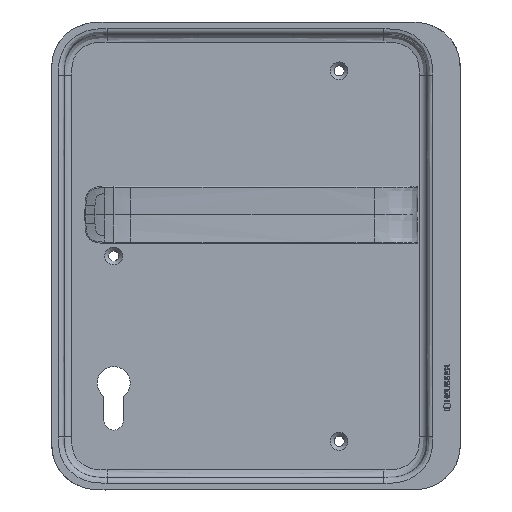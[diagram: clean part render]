
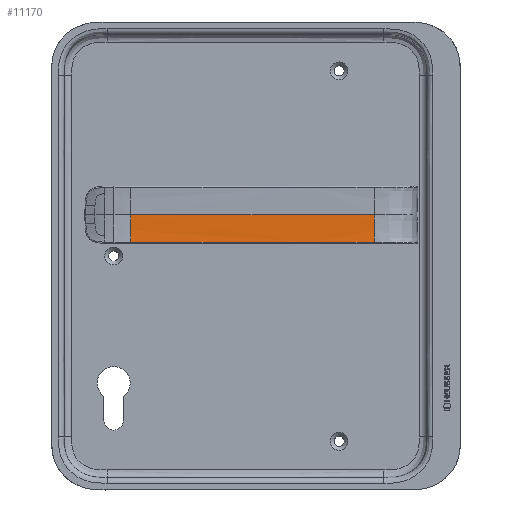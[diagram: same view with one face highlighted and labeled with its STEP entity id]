
A CAD part, top view. The second image highlights one B-rep face of the part: STEP entity #11170.
In plain terms, the highlighted free-form (B-spline) face has degree [5, 1] with [6, 2] control points.
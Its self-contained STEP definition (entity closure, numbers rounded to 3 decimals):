
#214=B_SPLINE_SURFACE_WITH_KNOTS('',5,1,((#22509,#22510),(#22511,#22512),
(#22513,#22514),(#22515,#22516),(#22517,#22518),(#22519,#22520)),
 .UNSPECIFIED.,.F.,.F.,.F.,(6,6),(2,2),(0.,1.),(0.,1.),.UNSPECIFIED.);
#674=B_SPLINE_CURVE_WITH_KNOTS('',5,(#22284,#22285,#22286,#22287,#22288,
#22289),.UNSPECIFIED.,.F.,.F.,(6,6),(0.034,0.5),
 .UNSPECIFIED.);
#679=B_SPLINE_CURVE_WITH_KNOTS('',5,(#22523,#22524,#22525,#22526,#22527,
#22528),.UNSPECIFIED.,.F.,.F.,(6,6),(0.034,0.5),
 .UNSPECIFIED.);
#680=B_SPLINE_CURVE_WITH_KNOTS('',3,(#22530,#22531,#22532,#22533,#22534,
#22535,#22536,#22537,#22538,#22539,#22540,#22541,#22542),.UNSPECIFIED.,
 .F.,.F.,(4,3,3,3,4),(3.187,11.154,11.571,
11.951,12.747),.UNSPECIFIED.);
#681=B_SPLINE_CURVE_WITH_KNOTS('',3,(#22543,#22544,#22545,#22546,#22547,
#22548,#22549,#22550,#22551,#22552,#22553,#22554,#22555,#22556,#22557,#22558,
#22559,#22560,#22561),.UNSPECIFIED.,.F.,.F.,(4,3,3,3,3,3,4),(0.,0.398,
0.558,0.796,0.914,1.195,
3.187),.UNSPECIFIED.);
#1632=LINE('',#22562,#2523);
#2523=VECTOR('',#13278,10.);
#3180=FACE_OUTER_BOUND('',#3857,.T.);
#3857=EDGE_LOOP('',(#8925,#8926,#8927,#8928,#8929));
#4914=VERTEX_POINT('',#22282);
#4915=VERTEX_POINT('',#22283);
#4920=VERTEX_POINT('',#22521);
#4921=VERTEX_POINT('',#22522);
#4922=VERTEX_POINT('',#22529);
#6304=EDGE_CURVE('',#4914,#4915,#674,.T.);
#6311=EDGE_CURVE('',#4920,#4921,#679,.T.);
#6312=EDGE_CURVE('',#4922,#4920,#680,.T.);
#6313=EDGE_CURVE('',#4914,#4922,#681,.T.);
#6314=EDGE_CURVE('',#4921,#4915,#1632,.T.);
#8925=ORIENTED_EDGE('',*,*,#6311,.F.);
#8926=ORIENTED_EDGE('',*,*,#6312,.F.);
#8927=ORIENTED_EDGE('',*,*,#6313,.F.);
#8928=ORIENTED_EDGE('',*,*,#6304,.T.);
#8929=ORIENTED_EDGE('',*,*,#6314,.F.);
#11170=ADVANCED_FACE('',(#3180),#214,.F.);
#13278=DIRECTION('',(1.,0.,-0.004));
#22282=CARTESIAN_POINT('',(59.658,5.7,38.446));
#22283=CARTESIAN_POINT('',(59.658,20.089,37.911));
#22284=CARTESIAN_POINT('Ctrl Pts',(59.658,5.7,38.446));
#22285=CARTESIAN_POINT('Ctrl Pts',(59.658,7.49,38.167));
#22286=CARTESIAN_POINT('Ctrl Pts',(59.658,9.99,38.023));
#22287=CARTESIAN_POINT('Ctrl Pts',(59.658,13.14,37.948));
#22288=CARTESIAN_POINT('Ctrl Pts',(59.658,16.615,37.911));
#22289=CARTESIAN_POINT('Ctrl Pts',(59.658,20.089,37.911));
#22509=CARTESIAN_POINT('Ctrl Pts',(59.658,35.089,38.554));
#22510=CARTESIAN_POINT('Ctrl Pts',(-67.815,35.089,39.101));
#22511=CARTESIAN_POINT('Ctrl Pts',(59.658,31.697,37.868));
#22512=CARTESIAN_POINT('Ctrl Pts',(-67.815,31.697,38.415));
#22513=CARTESIAN_POINT('Ctrl Pts',(59.658,24.989,37.868));
#22514=CARTESIAN_POINT('Ctrl Pts',(-67.815,24.989,38.415));
#22515=CARTESIAN_POINT('Ctrl Pts',(59.658,15.189,37.868));
#22516=CARTESIAN_POINT('Ctrl Pts',(-67.815,15.189,38.415));
#22517=CARTESIAN_POINT('Ctrl Pts',(59.658,8.482,37.868));
#22518=CARTESIAN_POINT('Ctrl Pts',(-67.815,8.482,38.415));
#22519=CARTESIAN_POINT('Ctrl Pts',(59.658,5.089,38.554));
#22520=CARTESIAN_POINT('Ctrl Pts',(-67.815,5.089,39.101));
#22521=CARTESIAN_POINT('',(-67.815,5.7,38.992));
#22522=CARTESIAN_POINT('',(-67.815,20.09,38.458));
#22523=CARTESIAN_POINT('Ctrl Pts',(-67.815,5.7,38.992));
#22524=CARTESIAN_POINT('Ctrl Pts',(-67.815,7.49,38.714));
#22525=CARTESIAN_POINT('Ctrl Pts',(-67.815,9.99,38.57));
#22526=CARTESIAN_POINT('Ctrl Pts',(-67.815,13.14,38.495));
#22527=CARTESIAN_POINT('Ctrl Pts',(-67.815,16.615,38.458));
#22528=CARTESIAN_POINT('Ctrl Pts',(-67.815,20.089,38.458));
#22529=CARTESIAN_POINT('',(27.791,5.7,38.582));
#22530=CARTESIAN_POINT('Ctrl Pts',(27.791,5.7,38.582));
#22531=CARTESIAN_POINT('Ctrl Pts',(1.233,5.7,38.696));
#22532=CARTESIAN_POINT('Ctrl Pts',(-25.324,5.7,38.81));
#22533=CARTESIAN_POINT('Ctrl Pts',(-51.882,5.7,38.924));
#22534=CARTESIAN_POINT('Ctrl Pts',(-53.26,5.7,38.93));
#22535=CARTESIAN_POINT('Ctrl Pts',(-54.638,5.7,38.936));
#22536=CARTESIAN_POINT('Ctrl Pts',(-56.016,5.7,38.942));
#22537=CARTESIAN_POINT('Ctrl Pts',(-57.293,5.7,38.947));
#22538=CARTESIAN_POINT('Ctrl Pts',(-58.571,5.7,38.953));
#22539=CARTESIAN_POINT('Ctrl Pts',(-59.848,5.7,38.958));
#22540=CARTESIAN_POINT('Ctrl Pts',(-62.504,5.7,38.97));
#22541=CARTESIAN_POINT('Ctrl Pts',(-65.159,5.7,38.981));
#22542=CARTESIAN_POINT('Ctrl Pts',(-67.815,5.7,38.992));
#22543=CARTESIAN_POINT('Ctrl Pts',(59.658,5.7,38.446));
#22544=CARTESIAN_POINT('Ctrl Pts',(58.33,5.7,38.451));
#22545=CARTESIAN_POINT('Ctrl Pts',(57.002,5.7,38.457));
#22546=CARTESIAN_POINT('Ctrl Pts',(55.674,5.7,38.463));
#22547=CARTESIAN_POINT('Ctrl Pts',(55.122,5.7,38.465));
#22548=CARTESIAN_POINT('Ctrl Pts',(54.57,5.7,38.468));
#22549=CARTESIAN_POINT('Ctrl Pts',(54.018,5.7,38.47));
#22550=CARTESIAN_POINT('Ctrl Pts',(53.243,5.7,38.473));
#22551=CARTESIAN_POINT('Ctrl Pts',(52.469,5.7,38.477));
#22552=CARTESIAN_POINT('Ctrl Pts',(51.695,5.7,38.48));
#22553=CARTESIAN_POINT('Ctrl Pts',(51.283,5.7,38.482));
#22554=CARTESIAN_POINT('Ctrl Pts',(50.87,5.7,38.483));
#22555=CARTESIAN_POINT('Ctrl Pts',(50.458,5.7,38.485));
#22556=CARTESIAN_POINT('Ctrl Pts',(49.542,5.7,38.489));
#22557=CARTESIAN_POINT('Ctrl Pts',(48.626,5.7,38.493));
#22558=CARTESIAN_POINT('Ctrl Pts',(47.71,5.7,38.497));
#22559=CARTESIAN_POINT('Ctrl Pts',(41.07,5.7,38.526));
#22560=CARTESIAN_POINT('Ctrl Pts',(34.43,5.701,38.554));
#22561=CARTESIAN_POINT('Ctrl Pts',(27.791,5.7,38.582));
#22562=CARTESIAN_POINT('',(-67.815,20.089,38.458));
